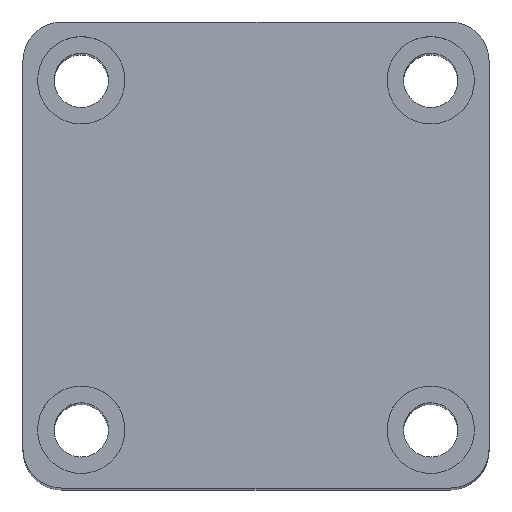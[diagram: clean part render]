
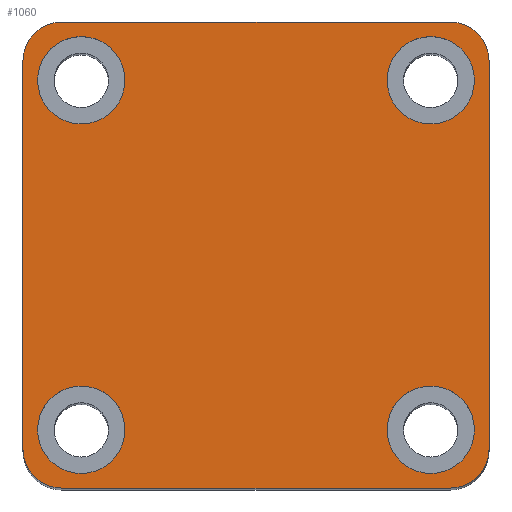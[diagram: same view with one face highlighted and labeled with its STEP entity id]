
A CAD part, top view. The second image highlights one B-rep face of the part: STEP entity #1060.
In plain terms, the highlighted planar face has unit normal (0, 0, 1).
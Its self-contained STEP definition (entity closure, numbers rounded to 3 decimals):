
#158 = CIRCLE ( 'NONE', #604, 4. ) ;
#159 = CIRCLE ( 'NONE', #600, 4. ) ;
#160 = CIRCLE ( 'NONE', #537, 4. ) ;
#161 = CIRCLE ( 'NONE', #608, 4. ) ;
#162 = CIRCLE ( 'NONE', #533, 4.5 ) ;
#163 = CIRCLE ( 'NONE', #536, 4.5 ) ;
#164 = CIRCLE ( 'NONE', #541, 4.5 ) ;
#166 = CIRCLE ( 'NONE', #554, 4.5 ) ;
#171 = VECTOR ( 'NONE', #2384, 1000. ) ;
#195 = LINE ( 'NONE', #2385, #171 ) ;
#211 = VECTOR ( 'NONE', #2392, 1000. ) ;
#214 = LINE ( 'NONE', #2393, #211 ) ;
#215 = VECTOR ( 'NONE', #2396, 1000. ) ;
#218 = LINE ( 'NONE', #2397, #215 ) ;
#227 = VECTOR ( 'NONE', #2425, 1000. ) ;
#229 = LINE ( 'NONE', #2427, #227 ) ;
#268 = CIRCLE ( 'NONE', #2575, 4.5 ) ;
#274 = CIRCLE ( 'NONE', #2570, 4.5 ) ;
#280 = CIRCLE ( 'NONE', #2571, 4.5 ) ;
#286 = CIRCLE ( 'NONE', #2562, 4.5 ) ;
#488 = FACE_OUTER_BOUND ( 'NONE', #845, .T. ) ;
#489 = FACE_BOUND ( 'NONE', #842, .T. ) ;
#491 = FACE_BOUND ( 'NONE', #847, .T. ) ;
#492 = FACE_BOUND ( 'NONE', #846, .T. ) ;
#522 = FACE_BOUND ( 'NONE', #849, .T. ) ;
#533 = AXIS2_PLACEMENT_3D ( 'NONE', #2360, #2359, #2358 ) ;
#536 = AXIS2_PLACEMENT_3D ( 'NONE', #2363, #2362, #2361 ) ;
#537 = AXIS2_PLACEMENT_3D ( 'NONE', #2347, #2345, #2344 ) ;
#541 = AXIS2_PLACEMENT_3D ( 'NONE', #2368, #2367, #2364 ) ;
#554 = AXIS2_PLACEMENT_3D ( 'NONE', #2375, #2374, #2373 ) ;
#600 = AXIS2_PLACEMENT_3D ( 'NONE', #2341, #2340, #2339 ) ;
#604 = AXIS2_PLACEMENT_3D ( 'NONE', #2337, #2336, #2334 ) ;
#608 = AXIS2_PLACEMENT_3D ( 'NONE', #2354, #2353, #2352 ) ;
#842 = EDGE_LOOP ( 'NONE', ( #932, #933 ) ) ;
#845 = EDGE_LOOP ( 'NONE', ( #1802, #1801, #1686, #1687, #1688, #1689, #1690, #1691 ) ) ;
#846 = EDGE_LOOP ( 'NONE', ( #928, #929 ) ) ;
#847 = EDGE_LOOP ( 'NONE', ( #934, #935 ) ) ;
#849 = EDGE_LOOP ( 'NONE', ( #930, #931 ) ) ;
#928 = ORIENTED_EDGE ( 'NONE', *, *, #1608, .F. ) ;
#929 = ORIENTED_EDGE ( 'NONE', *, *, #1552, .F. ) ;
#930 = ORIENTED_EDGE ( 'NONE', *, *, #1609, .F. ) ;
#931 = ORIENTED_EDGE ( 'NONE', *, *, #1556, .F. ) ;
#932 = ORIENTED_EDGE ( 'NONE', *, *, #1610, .F. ) ;
#933 = ORIENTED_EDGE ( 'NONE', *, *, #1560, .F. ) ;
#934 = ORIENTED_EDGE ( 'NONE', *, *, #1611, .F. ) ;
#935 = ORIENTED_EDGE ( 'NONE', *, *, #1564, .F. ) ;
#1060 = ADVANCED_FACE ( 'NONE', ( #492, #522, #489, #491, #488 ), #1405, .T. ) ;
#1401 = DIRECTION ( 'NONE',  ( 1., 0., 0. ) ) ;
#1403 = CARTESIAN_POINT ( 'NONE',  ( 0., 0., 115. ) ) ;
#1405 = PLANE ( 'NONE',  #2662 ) ;
#1407 = DIRECTION ( 'NONE',  ( 0., 0., 1. ) ) ;
#1552 = EDGE_CURVE ( 'NONE', #1856, #1844, #286, .T. ) ;
#1556 = EDGE_CURVE ( 'NONE', #1874, #1872, #280, .T. ) ;
#1560 = EDGE_CURVE ( 'NONE', #1876, #1905, #274, .T. ) ;
#1564 = EDGE_CURVE ( 'NONE', #1881, #1839, #268, .T. ) ;
#1592 = EDGE_CURVE ( 'NONE', #1879, #1864, #229, .T. ) ;
#1598 = EDGE_CURVE ( 'NONE', #1866, #1908, #218, .T. ) ;
#1600 = EDGE_CURVE ( 'NONE', #1883, #1886, #214, .T. ) ;
#1604 = EDGE_CURVE ( 'NONE', #1846, #1878, #195, .T. ) ;
#1608 = EDGE_CURVE ( 'NONE', #1844, #1856, #166, .T. ) ;
#1609 = EDGE_CURVE ( 'NONE', #1872, #1874, #164, .T. ) ;
#1610 = EDGE_CURVE ( 'NONE', #1905, #1876, #163, .T. ) ;
#1611 = EDGE_CURVE ( 'NONE', #1839, #1881, #162, .T. ) ;
#1612 = EDGE_CURVE ( 'NONE', #1908, #1883, #161, .T. ) ;
#1613 = EDGE_CURVE ( 'NONE', #1886, #1846, #160, .T. ) ;
#1614 = EDGE_CURVE ( 'NONE', #1878, #1879, #159, .T. ) ;
#1615 = EDGE_CURVE ( 'NONE', #1864, #1866, #158, .T. ) ;
#1686 = ORIENTED_EDGE ( 'NONE', *, *, #1600, .T. ) ;
#1687 = ORIENTED_EDGE ( 'NONE', *, *, #1613, .T. ) ;
#1688 = ORIENTED_EDGE ( 'NONE', *, *, #1604, .T. ) ;
#1689 = ORIENTED_EDGE ( 'NONE', *, *, #1614, .T. ) ;
#1690 = ORIENTED_EDGE ( 'NONE', *, *, #1592, .T. ) ;
#1691 = ORIENTED_EDGE ( 'NONE', *, *, #1615, .T. ) ;
#1801 = ORIENTED_EDGE ( 'NONE', *, *, #1612, .T. ) ;
#1802 = ORIENTED_EDGE ( 'NONE', *, *, #1598, .T. ) ;
#1839 = VERTEX_POINT ( 'NONE', #2177 ) ;
#1844 = VERTEX_POINT ( 'NONE', #2179 ) ;
#1846 = VERTEX_POINT ( 'NONE', #2173 ) ;
#1856 = VERTEX_POINT ( 'NONE', #2161 ) ;
#1864 = VERTEX_POINT ( 'NONE', #2149 ) ;
#1866 = VERTEX_POINT ( 'NONE', #2147 ) ;
#1872 = VERTEX_POINT ( 'NONE', #2136 ) ;
#1874 = VERTEX_POINT ( 'NONE', #2134 ) ;
#1876 = VERTEX_POINT ( 'NONE', #2132 ) ;
#1878 = VERTEX_POINT ( 'NONE', #2130 ) ;
#1879 = VERTEX_POINT ( 'NONE', #2129 ) ;
#1881 = VERTEX_POINT ( 'NONE', #2127 ) ;
#1883 = VERTEX_POINT ( 'NONE', #2123 ) ;
#1886 = VERTEX_POINT ( 'NONE', #2117 ) ;
#1905 = VERTEX_POINT ( 'NONE', #2093 ) ;
#1908 = VERTEX_POINT ( 'NONE', #2090 ) ;
#2090 = CARTESIAN_POINT ( 'NONE',  ( -20., 24., 115. ) ) ;
#2093 = CARTESIAN_POINT ( 'NONE',  ( -13.5, -18., 115. ) ) ;
#2106 = DIRECTION ( 'NONE',  ( 0., 0., 1. ) ) ;
#2109 = DIRECTION ( 'NONE',  ( 1., 0., 0. ) ) ;
#2117 = CARTESIAN_POINT ( 'NONE',  ( -24., -20., 115. ) ) ;
#2123 = CARTESIAN_POINT ( 'NONE',  ( -24., 20., 115. ) ) ;
#2127 = CARTESIAN_POINT ( 'NONE',  ( 13.5, -18., 115. ) ) ;
#2129 = CARTESIAN_POINT ( 'NONE',  ( 24., -20., 115. ) ) ;
#2130 = CARTESIAN_POINT ( 'NONE',  ( 20., -24., 115. ) ) ;
#2132 = CARTESIAN_POINT ( 'NONE',  ( -22.5, -18., 115. ) ) ;
#2134 = CARTESIAN_POINT ( 'NONE',  ( 13.5, 18., 115. ) ) ;
#2136 = CARTESIAN_POINT ( 'NONE',  ( 22.5, 18., 115. ) ) ;
#2147 = CARTESIAN_POINT ( 'NONE',  ( 20., 24., 115. ) ) ;
#2149 = CARTESIAN_POINT ( 'NONE',  ( 24., 20., 115. ) ) ;
#2152 = CARTESIAN_POINT ( 'NONE',  ( 18., -18., 115. ) ) ;
#2161 = CARTESIAN_POINT ( 'NONE',  ( -22.5, 18., 115. ) ) ;
#2173 = CARTESIAN_POINT ( 'NONE',  ( -20., -24., 115. ) ) ;
#2177 = CARTESIAN_POINT ( 'NONE',  ( 22.5, -18., 115. ) ) ;
#2179 = CARTESIAN_POINT ( 'NONE',  ( -13.5, 18., 115. ) ) ;
#2254 = DIRECTION ( 'NONE',  ( 1., 0., 0. ) ) ;
#2258 = DIRECTION ( 'NONE',  ( 0., 0., 1. ) ) ;
#2262 = DIRECTION ( 'NONE',  ( 1., 0., 0. ) ) ;
#2263 = CARTESIAN_POINT ( 'NONE',  ( -18., -18., 115. ) ) ;
#2292 = DIRECTION ( 'NONE',  ( 1., 0., 0. ) ) ;
#2298 = DIRECTION ( 'NONE',  ( 0., 0., 1. ) ) ;
#2299 = CARTESIAN_POINT ( 'NONE',  ( 18., 18., 115. ) ) ;
#2334 = DIRECTION ( 'NONE',  ( 1., 0., 0. ) ) ;
#2335 = DIRECTION ( 'NONE',  ( 0., 0., 1. ) ) ;
#2336 = DIRECTION ( 'NONE',  ( 0., 0., 1. ) ) ;
#2337 = CARTESIAN_POINT ( 'NONE',  ( 20., 20., 115. ) ) ;
#2338 = CARTESIAN_POINT ( 'NONE',  ( -18., 18., 115. ) ) ;
#2339 = DIRECTION ( 'NONE',  ( 1., 0., 0. ) ) ;
#2340 = DIRECTION ( 'NONE',  ( 0., 0., 1. ) ) ;
#2341 = CARTESIAN_POINT ( 'NONE',  ( 20., -20., 115. ) ) ;
#2344 = DIRECTION ( 'NONE',  ( 1., 0., 0. ) ) ;
#2345 = DIRECTION ( 'NONE',  ( 0., 0., 1. ) ) ;
#2347 = CARTESIAN_POINT ( 'NONE',  ( -20., -20., 115. ) ) ;
#2352 = DIRECTION ( 'NONE',  ( 1., 0., 0. ) ) ;
#2353 = DIRECTION ( 'NONE',  ( 0., 0., 1. ) ) ;
#2354 = CARTESIAN_POINT ( 'NONE',  ( -20., 20., 115. ) ) ;
#2358 = DIRECTION ( 'NONE',  ( 1., 0., 0. ) ) ;
#2359 = DIRECTION ( 'NONE',  ( 0., 0., 1. ) ) ;
#2360 = CARTESIAN_POINT ( 'NONE',  ( 18., -18., 115. ) ) ;
#2361 = DIRECTION ( 'NONE',  ( 1., 0., 0. ) ) ;
#2362 = DIRECTION ( 'NONE',  ( 0., 0., 1. ) ) ;
#2363 = CARTESIAN_POINT ( 'NONE',  ( -18., -18., 115. ) ) ;
#2364 = DIRECTION ( 'NONE',  ( 1., 0., 0. ) ) ;
#2367 = DIRECTION ( 'NONE',  ( 0., 0., 1. ) ) ;
#2368 = CARTESIAN_POINT ( 'NONE',  ( 18., 18., 115. ) ) ;
#2373 = DIRECTION ( 'NONE',  ( 1., 0., 0. ) ) ;
#2374 = DIRECTION ( 'NONE',  ( 0., 0., 1. ) ) ;
#2375 = CARTESIAN_POINT ( 'NONE',  ( -18., 18., 115. ) ) ;
#2384 = DIRECTION ( 'NONE',  ( 1., 0., 0. ) ) ;
#2385 = CARTESIAN_POINT ( 'NONE',  ( -24., -24., 115. ) ) ;
#2392 = DIRECTION ( 'NONE',  ( 0., -1., 0. ) ) ;
#2393 = CARTESIAN_POINT ( 'NONE',  ( -24., 24., 115. ) ) ;
#2396 = DIRECTION ( 'NONE',  ( -1., 0., 0. ) ) ;
#2397 = CARTESIAN_POINT ( 'NONE',  ( -24., 24., 115. ) ) ;
#2425 = DIRECTION ( 'NONE',  ( 0., 1., 0. ) ) ;
#2427 = CARTESIAN_POINT ( 'NONE',  ( 24., 24., 115. ) ) ;
#2562 = AXIS2_PLACEMENT_3D ( 'NONE', #2338, #2335, #2254 ) ;
#2570 = AXIS2_PLACEMENT_3D ( 'NONE', #2263, #2258, #2262 ) ;
#2571 = AXIS2_PLACEMENT_3D ( 'NONE', #2299, #2298, #2292 ) ;
#2575 = AXIS2_PLACEMENT_3D ( 'NONE', #2152, #2106, #2109 ) ;
#2662 = AXIS2_PLACEMENT_3D ( 'NONE', #1403, #1407, #1401 ) ;
